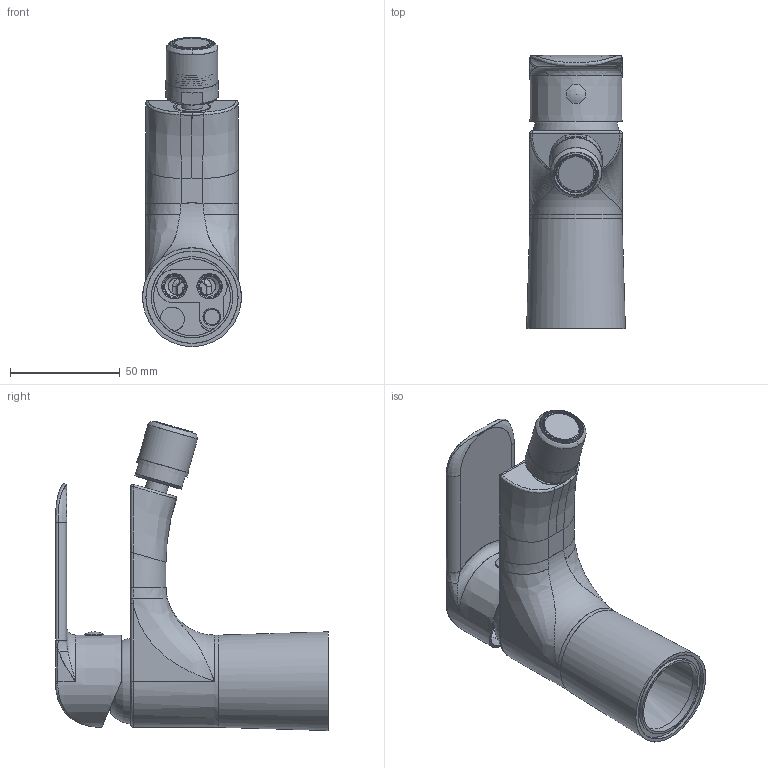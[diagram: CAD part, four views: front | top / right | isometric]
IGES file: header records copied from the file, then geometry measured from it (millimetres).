
Global section: file name: 5901867779472_igs; native system: Autodesk Inventor 2020; preprocessor: unknown; date: 20200727.152111; units: millimetre
Bounding box: 45 x 124.3 x 140.9 mm (x, y, z)
Surface area: 73158.2 mm2 (no closed solid volume)
Topology: 0 solids, 0 shells, 333 faces, 5823 edges, 5774 vertices
Faces by surface type: bspline 184, revolution 149
